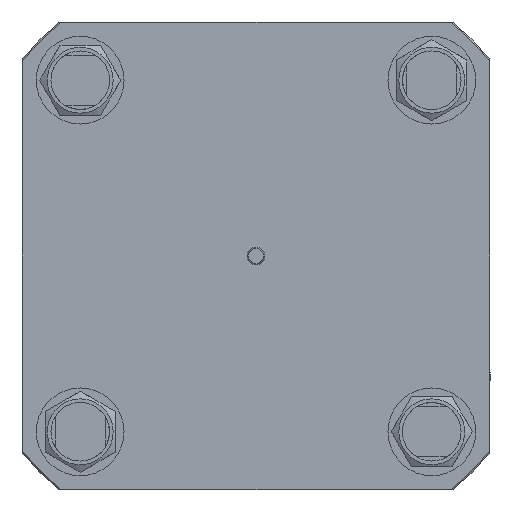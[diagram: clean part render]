
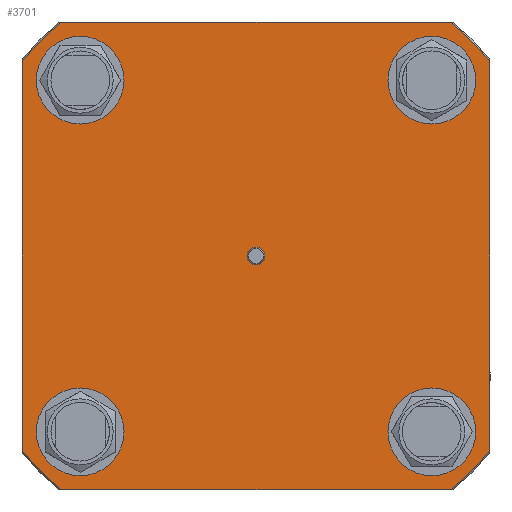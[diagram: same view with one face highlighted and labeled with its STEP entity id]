
A CAD part, left-side view. The second image highlights one B-rep face of the part: STEP entity #3701.
In plain terms, the highlighted planar face has unit normal (-1, 0, 0).
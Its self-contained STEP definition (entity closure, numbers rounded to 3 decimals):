
#245=FACE_BOUND('',#728,.T.);
#246=FACE_BOUND('',#729,.T.);
#247=FACE_BOUND('',#730,.T.);
#248=FACE_BOUND('',#731,.T.);
#249=FACE_BOUND('',#732,.T.);
#331=PLANE('',#4067);
#476=FACE_OUTER_BOUND('',#727,.T.);
#727=EDGE_LOOP('',(#3025,#3026,#3027,#3028,#3029,#3030,#3031,#3032));
#728=EDGE_LOOP('',(#3033));
#729=EDGE_LOOP('',(#3034));
#730=EDGE_LOOP('',(#3035));
#731=EDGE_LOOP('',(#3036));
#732=EDGE_LOOP('',(#3037));
#981=LINE('',#6184,#1202);
#982=LINE('',#6188,#1203);
#983=LINE('',#6192,#1204);
#984=LINE('',#6196,#1205);
#1202=VECTOR('',#4887,10.);
#1203=VECTOR('',#4890,10.);
#1204=VECTOR('',#4893,10.);
#1205=VECTOR('',#4896,10.);
#1384=CIRCLE('',#3991,3.);
#1395=CIRCLE('',#4033,15.);
#1397=CIRCLE('',#4037,15.);
#1399=CIRCLE('',#4041,15.);
#1403=CIRCLE('',#4056,15.);
#1412=CIRCLE('',#4068,104.);
#1413=CIRCLE('',#4069,104.);
#1414=CIRCLE('',#4070,104.);
#1415=CIRCLE('',#4071,104.);
#1642=VERTEX_POINT('',#5804);
#1689=VERTEX_POINT('',#6027);
#1691=VERTEX_POINT('',#6034);
#1693=VERTEX_POINT('',#6041);
#1709=VERTEX_POINT('',#6117);
#1726=VERTEX_POINT('',#6182);
#1727=VERTEX_POINT('',#6183);
#1728=VERTEX_POINT('',#6185);
#1729=VERTEX_POINT('',#6187);
#1730=VERTEX_POINT('',#6189);
#1731=VERTEX_POINT('',#6191);
#1732=VERTEX_POINT('',#6193);
#1733=VERTEX_POINT('',#6195);
#2067=EDGE_CURVE('',#1642,#1642,#1384,.T.);
#2140=EDGE_CURVE('',#1689,#1689,#1395,.T.);
#2143=EDGE_CURVE('',#1691,#1691,#1397,.T.);
#2146=EDGE_CURVE('',#1693,#1693,#1399,.T.);
#2171=EDGE_CURVE('',#1709,#1709,#1403,.T.);
#2190=EDGE_CURVE('',#1726,#1727,#981,.T.);
#2191=EDGE_CURVE('',#1727,#1728,#1412,.T.);
#2192=EDGE_CURVE('',#1728,#1729,#982,.T.);
#2193=EDGE_CURVE('',#1729,#1730,#1413,.T.);
#2194=EDGE_CURVE('',#1730,#1731,#983,.T.);
#2195=EDGE_CURVE('',#1731,#1732,#1414,.T.);
#2196=EDGE_CURVE('',#1732,#1733,#984,.T.);
#2197=EDGE_CURVE('',#1733,#1726,#1415,.T.);
#3025=ORIENTED_EDGE('',*,*,#2190,.T.);
#3026=ORIENTED_EDGE('',*,*,#2191,.T.);
#3027=ORIENTED_EDGE('',*,*,#2192,.T.);
#3028=ORIENTED_EDGE('',*,*,#2193,.T.);
#3029=ORIENTED_EDGE('',*,*,#2194,.T.);
#3030=ORIENTED_EDGE('',*,*,#2195,.T.);
#3031=ORIENTED_EDGE('',*,*,#2196,.T.);
#3032=ORIENTED_EDGE('',*,*,#2197,.T.);
#3033=ORIENTED_EDGE('',*,*,#2067,.T.);
#3034=ORIENTED_EDGE('',*,*,#2140,.T.);
#3035=ORIENTED_EDGE('',*,*,#2143,.T.);
#3036=ORIENTED_EDGE('',*,*,#2146,.T.);
#3037=ORIENTED_EDGE('',*,*,#2171,.T.);
#3701=ADVANCED_FACE('',(#476,#245,#246,#247,#248,#249),#331,.T.);
#3991=AXIS2_PLACEMENT_3D('',#5805,#4690,#4691);
#4033=AXIS2_PLACEMENT_3D('',#6028,#4800,#4801);
#4037=AXIS2_PLACEMENT_3D('',#6035,#4809,#4810);
#4041=AXIS2_PLACEMENT_3D('',#6042,#4818,#4819);
#4056=AXIS2_PLACEMENT_3D('',#6118,#4857,#4858);
#4067=AXIS2_PLACEMENT_3D('',#6181,#4885,#4886);
#4068=AXIS2_PLACEMENT_3D('',#6186,#4888,#4889);
#4069=AXIS2_PLACEMENT_3D('',#6190,#4891,#4892);
#4070=AXIS2_PLACEMENT_3D('',#6194,#4894,#4895);
#4071=AXIS2_PLACEMENT_3D('',#6197,#4897,#4898);
#4690=DIRECTION('center_axis',(1.,0.,0.));
#4691=DIRECTION('ref_axis',(0.,1.,0.));
#4800=DIRECTION('center_axis',(1.,0.,0.));
#4801=DIRECTION('ref_axis',(0.,-1.,0.));
#4809=DIRECTION('center_axis',(1.,0.,0.));
#4810=DIRECTION('ref_axis',(0.,0.,
-1.));
#4818=DIRECTION('center_axis',(1.,0.,0.));
#4819=DIRECTION('ref_axis',(0.,1.,0.));
#4857=DIRECTION('center_axis',(1.,0.,0.));
#4858=DIRECTION('ref_axis',(0.,0.,1.));
#4885=DIRECTION('center_axis',(-1.,0.,0.));
#4886=DIRECTION('ref_axis',(0.,0.,
-1.));
#4887=DIRECTION('',(0.,-1.,0.));
#4888=DIRECTION('center_axis',(-1.,0.,0.));
#4889=DIRECTION('ref_axis',(0.,0.,
-1.));
#4890=DIRECTION('',(0.,0.,1.));
#4891=DIRECTION('center_axis',(-1.,0.,0.));
#4892=DIRECTION('ref_axis',(0.,0.,
-1.));
#4893=DIRECTION('',(0.,1.,0.));
#4894=DIRECTION('center_axis',(-1.,0.,0.));
#4895=DIRECTION('ref_axis',(0.,0.,
-1.));
#4896=DIRECTION('',(0.,0.,-1.));
#4897=DIRECTION('center_axis',(-1.,0.,0.));
#4898=DIRECTION('ref_axis',(0.,0.,
-1.));
#5804=CARTESIAN_POINT('',(-263.301,-3.,0.));
#5805=CARTESIAN_POINT('Origin',(-263.301,0.,
0.));
#6027=CARTESIAN_POINT('',(-263.301,-45.104,60.104));
#6028=CARTESIAN_POINT('Origin',(-263.301,-60.104,60.104));
#6034=CARTESIAN_POINT('',(-263.301,-60.104,-45.104));
#6035=CARTESIAN_POINT('Origin',(-263.301,-60.104,-60.104));
#6041=CARTESIAN_POINT('',(-263.301,45.104,-60.104));
#6042=CARTESIAN_POINT('Origin',(-263.301,60.104,-60.104));
#6117=CARTESIAN_POINT('',(-263.301,60.104,45.104));
#6118=CARTESIAN_POINT('Origin',(-263.301,60.104,60.104));
#6181=CARTESIAN_POINT('Origin',(-263.301,-3.1,0.));
#6182=CARTESIAN_POINT('',(-263.301,66.453,-80.));
#6183=CARTESIAN_POINT('',(-263.301,-66.453,-80.));
#6184=CARTESIAN_POINT('',(-263.301,32.454,-80.));
#6185=CARTESIAN_POINT('',(-263.301,-80.,-66.453));
#6186=CARTESIAN_POINT('Origin',(-263.301,0.,
0.));
#6187=CARTESIAN_POINT('',(-263.301,-80.,66.453));
#6188=CARTESIAN_POINT('',(-263.301,-80.,-34.004));
#6189=CARTESIAN_POINT('',(-263.301,-66.453,80.));
#6190=CARTESIAN_POINT('Origin',(-263.301,0.,
0.));
#6191=CARTESIAN_POINT('',(-263.301,66.453,80.));
#6192=CARTESIAN_POINT('',(-263.301,-35.554,80.));
#6193=CARTESIAN_POINT('',(-263.301,80.,66.453));
#6194=CARTESIAN_POINT('Origin',(-263.301,0.,
0.));
#6195=CARTESIAN_POINT('',(-263.301,80.,-66.453));
#6196=CARTESIAN_POINT('',(-263.301,80.,34.004));
#6197=CARTESIAN_POINT('Origin',(-263.301,0.,
0.));
